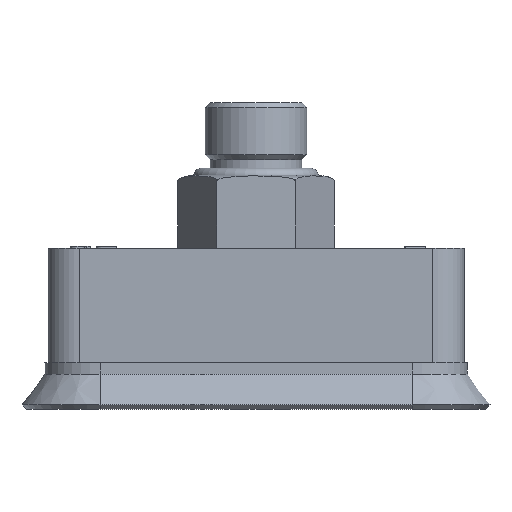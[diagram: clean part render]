
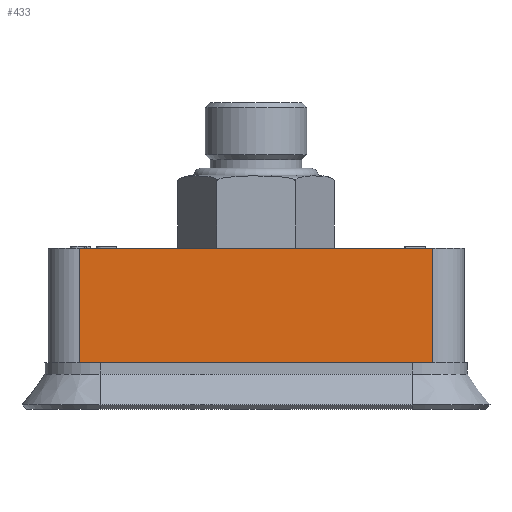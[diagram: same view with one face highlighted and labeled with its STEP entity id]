
A CAD part, front view. The second image highlights one B-rep face of the part: STEP entity #433.
In plain terms, the highlighted planar face has unit normal (0, -1, 0).
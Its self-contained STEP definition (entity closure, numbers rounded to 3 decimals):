
#433 = ADVANCED_FACE( '', ( #966 ), #967, .F. );
#966 = FACE_OUTER_BOUND( '', #1650, .T. );
#967 = PLANE( '', #1651 );
#1650 = EDGE_LOOP( '', ( #3119, #3120, #3121, #3122 ) );
#1651 = AXIS2_PLACEMENT_3D( '', #3123, #3124, #3125 );
#3119 = ORIENTED_EDGE( '', *, *, #4038, .T. );
#3120 = ORIENTED_EDGE( '', *, *, #4222, .F. );
#3121 = ORIENTED_EDGE( '', *, *, #4302, .F. );
#3122 = ORIENTED_EDGE( '', *, *, #3972, .T. );
#3123 = CARTESIAN_POINT( '', ( -17., -7., -0.9 ) );
#3124 = DIRECTION( '', ( 0., 1., 0. ) );
#3125 = DIRECTION( '', ( 0., 0., 1. ) );
#3972 = EDGE_CURVE( '', #4672, #4670, #4673, .T. );
#4038 = EDGE_CURVE( '', #4670, #4784, #4786, .T. );
#4222 = EDGE_CURVE( '', #5078, #4784, #5080, .T. );
#4302 = EDGE_CURVE( '', #4672, #5078, #5207, .T. );
#4670 = VERTEX_POINT( '', #5693 );
#4672 = VERTEX_POINT( '', #5695 );
#4673 = LINE( '', #5696, #5697 );
#4784 = VERTEX_POINT( '', #5908 );
#4786 = LINE( '', #5910, #5911 );
#5078 = VERTEX_POINT( '', #6459 );
#5080 = LINE( '', #6461, #6462 );
#5207 = LINE( '', #6793, #6794 );
#5693 = CARTESIAN_POINT( '', ( -17., -7., -11.9 ) );
#5695 = CARTESIAN_POINT( '', ( -17., -7., -0.9 ) );
#5696 = CARTESIAN_POINT( '', ( -17., -7., -0.9 ) );
#5697 = VECTOR( '', #7638, 1000. );
#5908 = CARTESIAN_POINT( '', ( 17., -7., -11.9 ) );
#5910 = CARTESIAN_POINT( '', ( -17., -7., -11.9 ) );
#5911 = VECTOR( '', #7697, 1000. );
#6459 = CARTESIAN_POINT( '', ( 17., -7., -0.9 ) );
#6461 = CARTESIAN_POINT( '', ( 17., -7., -0.9 ) );
#6462 = VECTOR( '', #7846, 1000. );
#6793 = CARTESIAN_POINT( '', ( -17., -7., -0.9 ) );
#6794 = VECTOR( '', #7879, 1000. );
#7638 = DIRECTION( '', ( 0., 0., -1. ) );
#7697 = DIRECTION( '', ( 1., 0., 0. ) );
#7846 = DIRECTION( '', ( 0., 0., -1. ) );
#7879 = DIRECTION( '', ( 1., 0., 0. ) );
